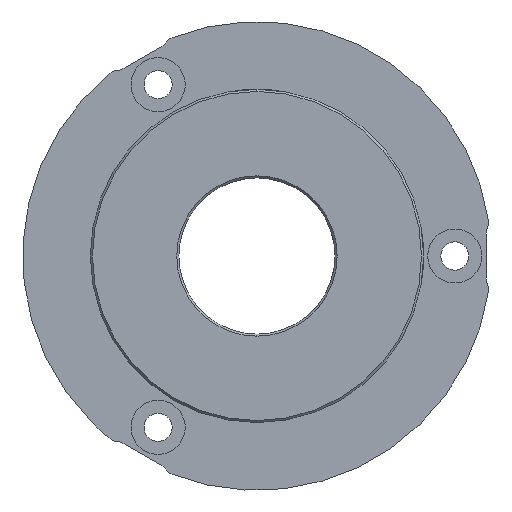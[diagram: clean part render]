
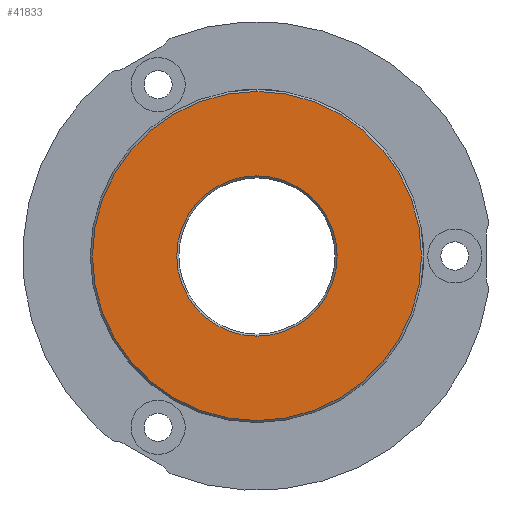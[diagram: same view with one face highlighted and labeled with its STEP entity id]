
A CAD part, front view. The second image highlights one B-rep face of the part: STEP entity #41833.
In plain terms, the highlighted planar face has unit normal (0, -1, 0).
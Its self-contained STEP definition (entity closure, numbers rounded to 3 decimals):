
#2367 = CIRCLE ( 'NONE', #22613, 7.7 ) ;
#4323 = AXIS2_PLACEMENT_3D ( 'NONE', #57397, #27930, #52088 ) ;
#10639 = CIRCLE ( 'NONE', #4323, 15.8 ) ;
#11217 = EDGE_CURVE ( 'NONE', #13258, #21713, #58144, .T. ) ;
#11223 = CARTESIAN_POINT ( 'NONE',  ( 0., -6.8, 15.8 ) ) ;
#11639 = ORIENTED_EDGE ( 'NONE', *, *, #11217, .T. ) ;
#12971 = DIRECTION ( 'NONE',  ( 0., 1., 0. ) ) ;
#13258 = VERTEX_POINT ( 'NONE', #48598 ) ;
#13509 = AXIS2_PLACEMENT_3D ( 'NONE', #13630, #12971, #23911 ) ;
#13630 = CARTESIAN_POINT ( 'NONE',  ( 0., -6.8, 0. ) ) ;
#20080 = CARTESIAN_POINT ( 'NONE',  ( 0., -6.8, 7.7 ) ) ;
#21713 = VERTEX_POINT ( 'NONE', #20080 ) ;
#22443 = AXIS2_PLACEMENT_3D ( 'NONE', #46700, #52364, #37724 ) ;
#22613 = AXIS2_PLACEMENT_3D ( 'NONE', #25344, #39832, #65424 ) ;
#23250 = PLANE ( 'NONE',  #13509 ) ;
#23911 = DIRECTION ( 'NONE',  ( 0., 0., 1. ) ) ;
#25344 = CARTESIAN_POINT ( 'NONE',  ( 0., -6.8, 0. ) ) ;
#27461 = AXIS2_PLACEMENT_3D ( 'NONE', #48224, #48866, #29034 ) ;
#27930 = DIRECTION ( 'NONE',  ( 0., -1., 0. ) ) ;
#28238 = FACE_OUTER_BOUND ( 'NONE', #45779, .T. ) ;
#28272 = ORIENTED_EDGE ( 'NONE', *, *, #42958, .T. ) ;
#29034 = DIRECTION ( 'NONE',  ( 0., 0., 1. ) ) ;
#37724 = DIRECTION ( 'NONE',  ( 0., 0., 1. ) ) ;
#38284 = CIRCLE ( 'NONE', #22443, 15.8 ) ;
#39832 = DIRECTION ( 'NONE',  ( 0., 1., 0. ) ) ;
#41833 = ADVANCED_FACE ( 'NONE', ( #59043, #28238 ), #23250, .F. ) ;
#42342 = VERTEX_POINT ( 'NONE', #53059 ) ;
#42958 = EDGE_CURVE ( 'NONE', #42342, #63075, #10639, .T. ) ;
#44467 = EDGE_CURVE ( 'NONE', #21713, #13258, #2367, .T. ) ;
#45779 = EDGE_LOOP ( 'NONE', ( #53925, #28272 ) ) ;
#46700 = CARTESIAN_POINT ( 'NONE',  ( 0., -6.8, 0. ) ) ;
#48224 = CARTESIAN_POINT ( 'NONE',  ( 0., -6.8, 0. ) ) ;
#48598 = CARTESIAN_POINT ( 'NONE',  ( 0., -6.8, -7.7 ) ) ;
#48866 = DIRECTION ( 'NONE',  ( 0., 1., 0. ) ) ;
#48968 = EDGE_CURVE ( 'NONE', #63075, #42342, #38284, .T. ) ;
#50511 = EDGE_LOOP ( 'NONE', ( #11639, #52506 ) ) ;
#52088 = DIRECTION ( 'NONE',  ( 0., 0., 1. ) ) ;
#52364 = DIRECTION ( 'NONE',  ( 0., -1., 0. ) ) ;
#52506 = ORIENTED_EDGE ( 'NONE', *, *, #44467, .T. ) ;
#53059 = CARTESIAN_POINT ( 'NONE',  ( 0., -6.8, -15.8 ) ) ;
#53925 = ORIENTED_EDGE ( 'NONE', *, *, #48968, .T. ) ;
#57397 = CARTESIAN_POINT ( 'NONE',  ( 0., -6.8, 0. ) ) ;
#58144 = CIRCLE ( 'NONE', #27461, 7.7 ) ;
#59043 = FACE_BOUND ( 'NONE', #50511, .T. ) ;
#63075 = VERTEX_POINT ( 'NONE', #11223 ) ;
#65424 = DIRECTION ( 'NONE',  ( 0., 0., 1. ) ) ;
